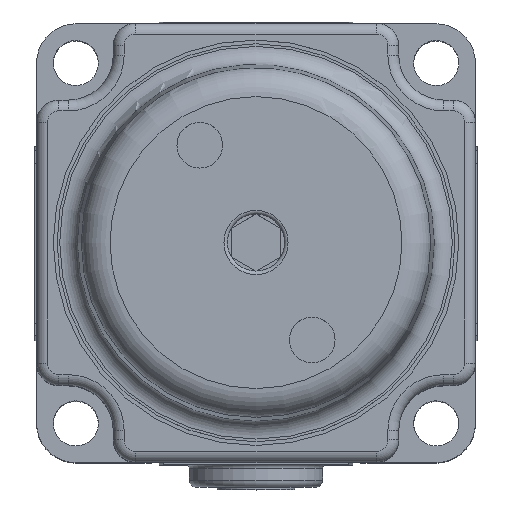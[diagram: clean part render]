
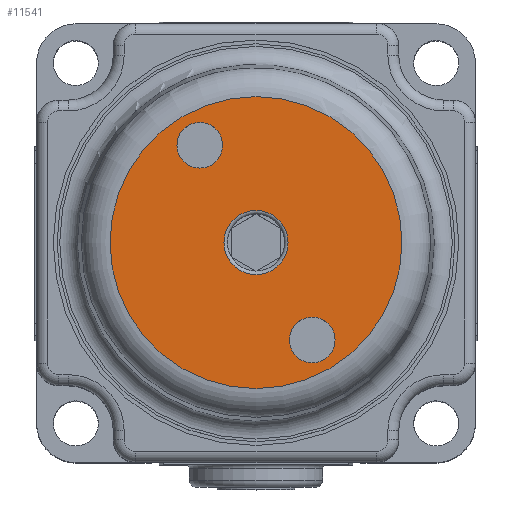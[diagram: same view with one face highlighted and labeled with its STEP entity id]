
A CAD part, top view. The second image highlights one B-rep face of the part: STEP entity #11541.
In plain terms, the highlighted planar face has unit normal (0, 0, 1).
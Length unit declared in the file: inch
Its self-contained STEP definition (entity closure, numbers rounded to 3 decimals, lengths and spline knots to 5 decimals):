
#318=FACE_BOUND('',#1469,.T.);
#319=FACE_BOUND('',#1470,.T.);
#320=FACE_BOUND('',#1471,.T.);
#432=PLANE('',#12291);
#800=FACE_OUTER_BOUND('',#1468,.T.);
#1468=EDGE_LOOP('',(#7551,#7552));
#1469=EDGE_LOOP('',(#7553,#7554));
#1470=EDGE_LOOP('',(#7555,#7556));
#1471=EDGE_LOOP('',(#7557,#7558));
#2188=CIRCLE('',#12278,0.089);
#2193=CIRCLE('',#12283,0.089);
#2200=CIRCLE('',#12292,0.4051);
#2201=CIRCLE('',#12293,0.4051);
#2202=CIRCLE('',#12294,0.0635);
#2203=CIRCLE('',#12295,0.0635);
#2204=CIRCLE('',#12296,0.0635);
#2205=CIRCLE('',#12297,0.0635);
#4497=VERTEX_POINT('',#18979);
#4498=VERTEX_POINT('',#18980);
#4508=VERTEX_POINT('',#19005);
#4509=VERTEX_POINT('',#19006);
#4510=VERTEX_POINT('',#19009);
#4511=VERTEX_POINT('',#19010);
#4512=VERTEX_POINT('',#19013);
#4513=VERTEX_POINT('',#19014);
#5671=EDGE_CURVE('',#4497,#4498,#2188,.T.);
#5676=EDGE_CURVE('',#4498,#4497,#2193,.T.);
#5684=EDGE_CURVE('',#4508,#4509,#2200,.T.);
#5685=EDGE_CURVE('',#4509,#4508,#2201,.T.);
#5686=EDGE_CURVE('',#4510,#4511,#2202,.T.);
#5687=EDGE_CURVE('',#4511,#4510,#2203,.T.);
#5688=EDGE_CURVE('',#4512,#4513,#2204,.T.);
#5689=EDGE_CURVE('',#4513,#4512,#2205,.T.);
#7551=ORIENTED_EDGE('',*,*,#5684,.T.);
#7552=ORIENTED_EDGE('',*,*,#5685,.T.);
#7553=ORIENTED_EDGE('',*,*,#5686,.T.);
#7554=ORIENTED_EDGE('',*,*,#5687,.T.);
#7555=ORIENTED_EDGE('',*,*,#5688,.T.);
#7556=ORIENTED_EDGE('',*,*,#5689,.T.);
#7557=ORIENTED_EDGE('',*,*,#5671,.F.);
#7558=ORIENTED_EDGE('',*,*,#5676,.F.);
#11541=ADVANCED_FACE('',(#800,#318,#319,#320),#432,.T.);
#12278=AXIS2_PLACEMENT_3D('',#18981,#13962,#13963);
#12283=AXIS2_PLACEMENT_3D('',#18989,#13972,#13973);
#12291=AXIS2_PLACEMENT_3D('',#19004,#13989,#13990);
#12292=AXIS2_PLACEMENT_3D('',#19007,#13991,#13992);
#12293=AXIS2_PLACEMENT_3D('',#19008,#13993,#13994);
#12294=AXIS2_PLACEMENT_3D('',#19011,#13995,#13996);
#12295=AXIS2_PLACEMENT_3D('',#19012,#13997,#13998);
#12296=AXIS2_PLACEMENT_3D('',#19015,#13999,#14000);
#12297=AXIS2_PLACEMENT_3D('',#19016,#14001,#14002);
#13962=DIRECTION('center_axis',(0.,0.,1.));
#13963=DIRECTION('ref_axis',(0.5,-0.866,0.));
#13972=DIRECTION('center_axis',(0.,0.,1.));
#13973=DIRECTION('ref_axis',(0.5,-0.866,0.));
#13989=DIRECTION('center_axis',(0.,0.,1.));
#13990=DIRECTION('ref_axis',(1.,0.,0.));
#13991=DIRECTION('center_axis',(0.,0.,1.));
#13992=DIRECTION('ref_axis',(-0.5,0.866,0.));
#13993=DIRECTION('center_axis',(0.,0.,1.));
#13994=DIRECTION('ref_axis',(-0.5,0.866,0.));
#13995=DIRECTION('center_axis',(0.,0.,-1.));
#13996=DIRECTION('ref_axis',(0.414,0.91,0.));
#13997=DIRECTION('center_axis',(0.,0.,-1.));
#13998=DIRECTION('ref_axis',(0.414,0.91,0.));
#13999=DIRECTION('center_axis',(0.,0.,-1.));
#14000=DIRECTION('ref_axis',(0.414,0.91,0.));
#14001=DIRECTION('center_axis',(0.,0.,-1.));
#14002=DIRECTION('ref_axis',(0.414,0.91,0.));
#18979=CARTESIAN_POINT('',(-0.38603,0.08525,0.9997));
#18980=CARTESIAN_POINT('',(-0.3741,0.04075,0.9997));
#18981=CARTESIAN_POINT('Origin',(-0.4631,0.04075,0.9997));
#18989=CARTESIAN_POINT('Origin',(-0.4631,0.04075,0.9997));
#19004=CARTESIAN_POINT('Origin',(-0.81428,-0.16199,
0.9997));
#19005=CARTESIAN_POINT('',(-0.11227,0.24331,0.9997));
#19006=CARTESIAN_POINT('',(-0.86821,0.04075,0.9997));
#19007=CARTESIAN_POINT('Origin',(-0.4631,0.04075,
0.9997));
#19008=CARTESIAN_POINT('Origin',(-0.4631,0.04075,
0.9997));
#19009=CARTESIAN_POINT('',(-0.56411,0.3427,0.9997));
#19010=CARTESIAN_POINT('',(-0.6741,0.2792,0.9997));
#19011=CARTESIAN_POINT('Origin',(-0.6191,0.31095,0.9997));
#19012=CARTESIAN_POINT('Origin',(-0.6191,0.31095,0.9997));
#19013=CARTESIAN_POINT('',(-0.25211,-0.1977,0.9997));
#19014=CARTESIAN_POINT('',(-0.3621,-0.2612,0.9997));
#19015=CARTESIAN_POINT('Origin',(-0.3071,-0.22945,0.9997));
#19016=CARTESIAN_POINT('Origin',(-0.3071,-0.22945,0.9997));
